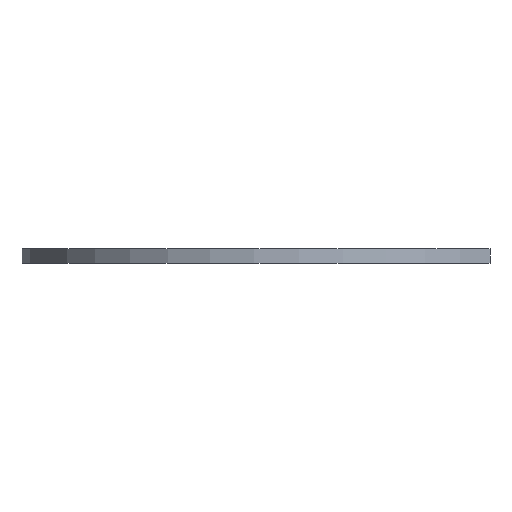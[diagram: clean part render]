
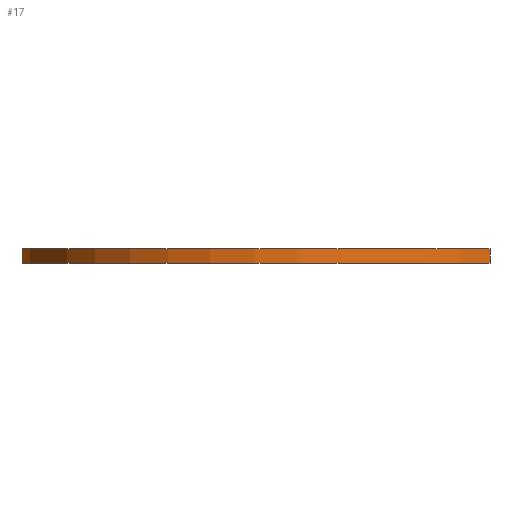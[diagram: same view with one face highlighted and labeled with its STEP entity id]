
A CAD part, left-side view. The second image highlights one B-rep face of the part: STEP entity #17.
In plain terms, the highlighted cylindrical face has radius 65 mm (diameter 130 mm), a partial arc.
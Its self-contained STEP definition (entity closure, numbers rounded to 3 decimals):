
#17 = ADVANCED_FACE('',(#18),#33,.T.);
#18 = FACE_BOUND('',#19,.F.);
#19 = EDGE_LOOP('',(#20,#56,#82,#115));
#20 = ORIENTED_EDGE('',*,*,#21,.F.);
#21 = EDGE_CURVE('',#22,#24,#26,.T.);
#22 = VERTEX_POINT('',#23);
#23 = CARTESIAN_POINT('',(39.,-52.,0.));
#24 = VERTEX_POINT('',#25);
#25 = CARTESIAN_POINT('',(-39.,-52.,0.));
#26 = SURFACE_CURVE('',#27,(#32,#44),.PCURVE_S1.);
#27 = CIRCLE('',#28,65.);
#28 = AXIS2_PLACEMENT_3D('',#29,#30,#31);
#29 = CARTESIAN_POINT('',(0.,0.,0.));
#30 = DIRECTION('',(0.,0.,1.));
#31 = DIRECTION('',(0.6,-0.8,0.));
#32 = PCURVE('',#33,#38);
#33 = CYLINDRICAL_SURFACE('',#34,65.);
#34 = AXIS2_PLACEMENT_3D('',#35,#36,#37);
#35 = CARTESIAN_POINT('',(0.,0.,0.));
#36 = DIRECTION('',(-0.,-0.,-1.));
#37 = DIRECTION('',(1.,0.,0.));
#38 = DEFINITIONAL_REPRESENTATION('',(#39),#43);
#39 = LINE('',#40,#41);
#40 = CARTESIAN_POINT('',(-5.356,0.));
#41 = VECTOR('',#42,1.);
#42 = DIRECTION('',(-1.,0.));
#43 = ( GEOMETRIC_REPRESENTATION_CONTEXT(2) 
PARAMETRIC_REPRESENTATION_CONTEXT() REPRESENTATION_CONTEXT('2D SPACE',''
  ) );
#44 = PCURVE('',#45,#50);
#45 = PLANE('',#46);
#46 = AXIS2_PLACEMENT_3D('',#47,#48,#49);
#47 = CARTESIAN_POINT('',(0.,0.,0.));
#48 = DIRECTION('',(0.,0.,1.));
#49 = DIRECTION('',(1.,0.,-0.));
#50 = DEFINITIONAL_REPRESENTATION('',(#51),#55);
#51 = CIRCLE('',#52,65.);
#52 = AXIS2_PLACEMENT_2D('',#53,#54);
#53 = CARTESIAN_POINT('',(0.,0.));
#54 = DIRECTION('',(0.6,-0.8));
#55 = ( GEOMETRIC_REPRESENTATION_CONTEXT(2) 
PARAMETRIC_REPRESENTATION_CONTEXT() REPRESENTATION_CONTEXT('2D SPACE',''
  ) );
#56 = ORIENTED_EDGE('',*,*,#57,.F.);
#57 = EDGE_CURVE('',#58,#22,#60,.T.);
#58 = VERTEX_POINT('',#59);
#59 = CARTESIAN_POINT('',(39.,-52.,3.5));
#60 = SURFACE_CURVE('',#61,(#65,#71),.PCURVE_S1.);
#61 = LINE('',#62,#63);
#62 = CARTESIAN_POINT('',(39.,-52.,0.));
#63 = VECTOR('',#64,1.);
#64 = DIRECTION('',(-0.,-0.,-1.));
#65 = PCURVE('',#33,#66);
#66 = DEFINITIONAL_REPRESENTATION('',(#67),#70);
#67 = B_SPLINE_CURVE_WITH_KNOTS('',1,(#68,#69),.UNSPECIFIED.,.F.,.F.,(2,
    2),(-3.5,0.),.PIECEWISE_BEZIER_KNOTS.);
#68 = CARTESIAN_POINT('',(-5.356,-3.5));
#69 = CARTESIAN_POINT('',(-5.356,0.));
#70 = ( GEOMETRIC_REPRESENTATION_CONTEXT(2) 
PARAMETRIC_REPRESENTATION_CONTEXT() REPRESENTATION_CONTEXT('2D SPACE',''
  ) );
#71 = PCURVE('',#72,#77);
#72 = PLANE('',#73);
#73 = AXIS2_PLACEMENT_3D('',#74,#75,#76);
#74 = CARTESIAN_POINT('',(-200.,-52.,-280.));
#75 = DIRECTION('',(0.,1.,0.));
#76 = DIRECTION('',(0.,0.,1.));
#77 = DEFINITIONAL_REPRESENTATION('',(#78),#81);
#78 = B_SPLINE_CURVE_WITH_KNOTS('',1,(#79,#80),.UNSPECIFIED.,.F.,.F.,(2,
    2),(-3.5,0.),.PIECEWISE_BEZIER_KNOTS.);
#79 = CARTESIAN_POINT('',(283.5,239.));
#80 = CARTESIAN_POINT('',(280.,239.));
#81 = ( GEOMETRIC_REPRESENTATION_CONTEXT(2) 
PARAMETRIC_REPRESENTATION_CONTEXT() REPRESENTATION_CONTEXT('2D SPACE',''
  ) );
#82 = ORIENTED_EDGE('',*,*,#83,.F.);
#83 = EDGE_CURVE('',#84,#58,#86,.T.);
#84 = VERTEX_POINT('',#85);
#85 = CARTESIAN_POINT('',(-39.,-52.,3.5));
#86 = SURFACE_CURVE('',#87,(#92,#99),.PCURVE_S1.);
#87 = CIRCLE('',#88,65.);
#88 = AXIS2_PLACEMENT_3D('',#89,#90,#91);
#89 = CARTESIAN_POINT('',(0.,0.,3.5));
#90 = DIRECTION('',(-0.,0.,-1.));
#91 = DIRECTION('',(-0.6,-0.8,0.));
#92 = PCURVE('',#33,#93);
#93 = DEFINITIONAL_REPRESENTATION('',(#94),#98);
#94 = LINE('',#95,#96);
#95 = CARTESIAN_POINT('',(-10.352,-3.5));
#96 = VECTOR('',#97,1.);
#97 = DIRECTION('',(1.,-0.));
#98 = ( GEOMETRIC_REPRESENTATION_CONTEXT(2) 
PARAMETRIC_REPRESENTATION_CONTEXT() REPRESENTATION_CONTEXT('2D SPACE',''
  ) );
#99 = PCURVE('',#100,#105);
#100 = PLANE('',#101);
#101 = AXIS2_PLACEMENT_3D('',#102,#103,#104);
#102 = CARTESIAN_POINT('',(0.,0.,3.5));
#103 = DIRECTION('',(0.,0.,1.));
#104 = DIRECTION('',(1.,0.,-0.));
#105 = DEFINITIONAL_REPRESENTATION('',(#106),#114);
#106 = ( BOUNDED_CURVE() B_SPLINE_CURVE(2,(#107,#108,#109,#110,#111,#112
,#113),.UNSPECIFIED.,.T.,.F.) B_SPLINE_CURVE_WITH_KNOTS((1,2,2,2,2,1),(
    -2.094,0.,2.094,4.189,6.283,
8.378),.UNSPECIFIED.) CURVE() GEOMETRIC_REPRESENTATION_ITEM() 
RATIONAL_B_SPLINE_CURVE((1.,0.5,1.,0.5,1.,0.5,1.)) REPRESENTATION_ITEM(
  '') );
#107 = CARTESIAN_POINT('',(-39.,-52.));
#108 = CARTESIAN_POINT('',(-129.067,15.55));
#109 = CARTESIAN_POINT('',(-25.533,59.775));
#110 = CARTESIAN_POINT('',(78.,104.));
#111 = CARTESIAN_POINT('',(64.533,-7.775));
#112 = CARTESIAN_POINT('',(51.067,-119.55));
#113 = CARTESIAN_POINT('',(-39.,-52.));
#114 = ( GEOMETRIC_REPRESENTATION_CONTEXT(2) 
PARAMETRIC_REPRESENTATION_CONTEXT() REPRESENTATION_CONTEXT('2D SPACE',''
  ) );
#115 = ORIENTED_EDGE('',*,*,#116,.T.);
#116 = EDGE_CURVE('',#84,#24,#117,.T.);
#117 = SURFACE_CURVE('',#118,(#122,#128),.PCURVE_S1.);
#118 = LINE('',#119,#120);
#119 = CARTESIAN_POINT('',(-39.,-52.,0.));
#120 = VECTOR('',#121,1.);
#121 = DIRECTION('',(-0.,-0.,-1.));
#122 = PCURVE('',#33,#123);
#123 = DEFINITIONAL_REPRESENTATION('',(#124),#127);
#124 = B_SPLINE_CURVE_WITH_KNOTS('',1,(#125,#126),.UNSPECIFIED.,.F.,.F.,
  (2,2),(-3.5,0.),.PIECEWISE_BEZIER_KNOTS.);
#125 = CARTESIAN_POINT('',(-10.352,-3.5));
#126 = CARTESIAN_POINT('',(-10.352,0.));
#127 = ( GEOMETRIC_REPRESENTATION_CONTEXT(2) 
PARAMETRIC_REPRESENTATION_CONTEXT() REPRESENTATION_CONTEXT('2D SPACE',''
  ) );
#128 = PCURVE('',#72,#129);
#129 = DEFINITIONAL_REPRESENTATION('',(#130),#133);
#130 = B_SPLINE_CURVE_WITH_KNOTS('',1,(#131,#132),.UNSPECIFIED.,.F.,.F.,
  (2,2),(-3.5,0.),.PIECEWISE_BEZIER_KNOTS.);
#131 = CARTESIAN_POINT('',(283.5,161.));
#132 = CARTESIAN_POINT('',(280.,161.));
#133 = ( GEOMETRIC_REPRESENTATION_CONTEXT(2) 
PARAMETRIC_REPRESENTATION_CONTEXT() REPRESENTATION_CONTEXT('2D SPACE',''
  ) );
